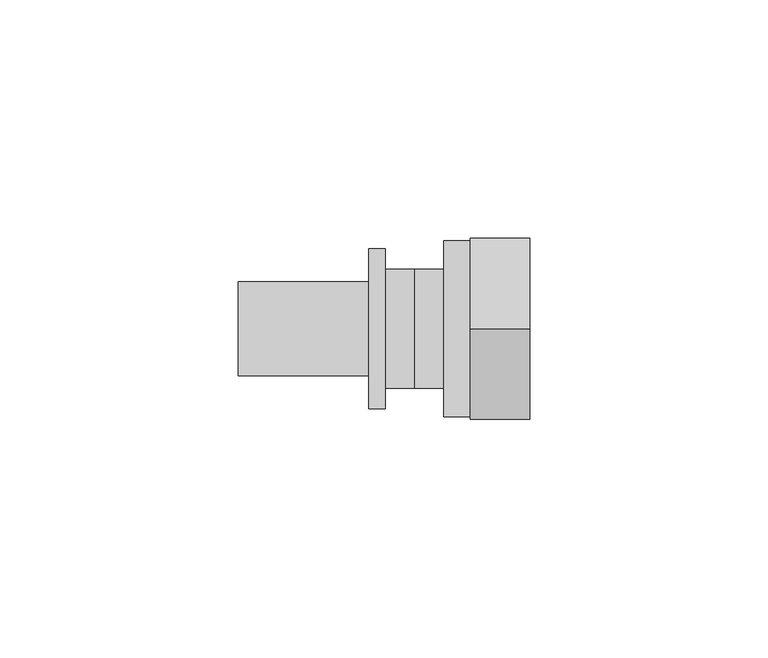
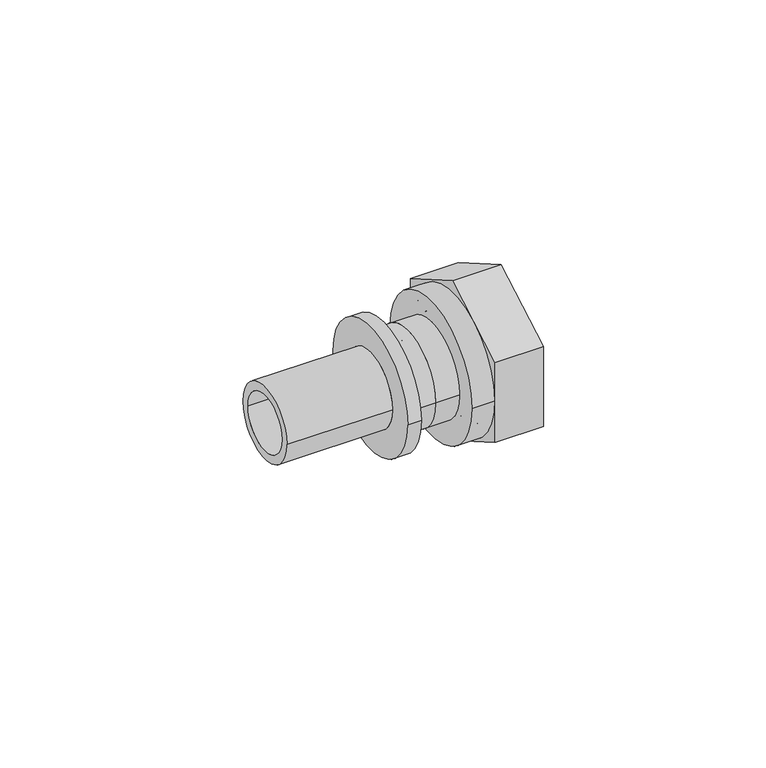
"""IFC4 building model written with IfcOpenShell, lengths in millimetres: pipe fitting geometry, REHAU_RAUTITAN_Adaptor_RX+_union nut : REHAU_RAUTITAN_Adaptor_RX+_union nut."""

from ifc_helpers import new_model, si_unit, point, frame, origin, origin_2d, place, context, project, spatial, polyline, circle_curve, trimmed, segment, composite_curve, outline, extrude, source, transform, mapped, element, save
from ifc_brep_helpers import plane_surface, cylinder_surface, revolved_surface, advanced_brep


def pipe_fitting_0ffc8cdd(model_context):
    return source(origin(), model_context, "Body", "SolidModel", [
        advanced_brep(
        [(0.0, 12.5, 0.0), (0.0, -12.5, 0.0), (-6.15, -12.5, 0.0), (-6.15, 12.5, 0.0), (-37.0, 7.6, 0.0), (-37.0, -7.6, 0.0), (0.0, -7.6, 0.0), (0.0, 7.6, 0.0), (-9.65, 9.875, 0.0), (-9.65, -9.875, 0.0), (-37.0, -9.875, 0.0), (-37.0, 9.875, 0.0), (-6.15, 16.8, 0.0), (-6.15, -16.8, 0.0), (-9.65, -16.8, 0.0), (-9.65, 16.8, 0.0)],
        [
            (0, 1, circle_curve(frame((0.0, 0.0, 0.0), z_axis=(-1.0, 0.0, 0.0), x_axis=(0.0, -1.0, 0.0)), 12.5)),
            (1, 2),
            (2, 3, circle_curve(frame((-6.15, 0.0, 0.0), z_axis=(1.0, 0.0, 0.0), x_axis=(0.0, -1.0, 0.0)), 12.5)),
            (3, 0),
            (4, 5, circle_curve(frame((-37.0, 0.0, 0.0), z_axis=(-1.0, 0.0, 0.0), x_axis=(0.0, -1.0, 0.0)), 7.6)),
            (5, 6),
            (6, 7, circle_curve(frame((0.0, 0.0, 0.0), z_axis=(1.0, 0.0, 0.0), x_axis=(0.0, -1.0, 0.0)), 7.6)),
            (7, 4),
            (8, 9, circle_curve(frame((-9.65, 0.0, 0.0), z_axis=(-1.0, 0.0, 0.0), x_axis=(0.0, -1.0, 0.0)), 9.875)),
            (9, 10),
            (10, 11, circle_curve(frame((-37.0, 0.0, 0.0), z_axis=(1.0, 0.0, 0.0), x_axis=(0.0, -1.0, 0.0)), 9.875)),
            (11, 8),
            (12, 13, circle_curve(frame((-6.15, 0.0, 0.0), z_axis=(-1.0, 0.0, 0.0), x_axis=(0.0, -1.0, 0.0)), 16.8)),
            (13, 14),
            (14, 15, circle_curve(frame((-9.65, 0.0, 0.0), z_axis=(1.0, 0.0, 0.0), x_axis=(0.0, -1.0, 0.0)), 16.8)),
            (15, 12),
            (1, 0, circle_curve(frame((0.0, 0.0, 0.0), z_axis=(-1.0, 0.0, 0.0), x_axis=(0.0, 1.0, 0.0)), 12.5)),
            (3, 2, circle_curve(frame((-6.15, 0.0, 0.0), z_axis=(1.0, 0.0, 0.0), x_axis=(0.0, 1.0, 0.0)), 12.5)),
            (6, 7, circle_curve(frame((0.0, 0.0, 0.0), z_axis=(-1.0, 0.0, 0.0), x_axis=(0.0, 1.0, 0.0)), 7.6)),
            (5, 4, circle_curve(frame((-37.0, 0.0, 0.0), z_axis=(-1.0, 0.0, 0.0), x_axis=(0.0, 1.0, 0.0)), 7.6)),
            (10, 11, circle_curve(frame((-37.0, 0.0, 0.0), z_axis=(-1.0, 0.0, 0.0), x_axis=(0.0, 1.0, 0.0)), 9.875)),
            (9, 8, circle_curve(frame((-9.65, 0.0, 0.0), z_axis=(-1.0, 0.0, 0.0), x_axis=(0.0, 1.0, 0.0)), 9.875)),
            (14, 15, circle_curve(frame((-9.65, 0.0, 0.0), z_axis=(-1.0, 0.0, 0.0), x_axis=(0.0, 1.0, 0.0)), 16.8)),
            (13, 12, circle_curve(frame((-6.15, 0.0, 0.0), z_axis=(-1.0, 0.0, 0.0), x_axis=(0.0, 1.0, 0.0)), 16.8)),
        ],
        [
            cylinder_surface(frame((0.0, 0.0, 0.0), z_axis=(1.0, 0.0, 0.0), x_axis=(0.0, -1.0, 0.0)), 12.5),
            revolved_surface(polyline([(0.0, -7.6, 0.0), (-37.0, -7.6, 0.0)]), (0.0, 0.0, 0.0), (1.0, 0.0, 0.0)),
            cylinder_surface(frame((0.0, 0.0, 0.0), z_axis=(1.0, 0.0, 0.0), x_axis=(0.0, -1.0, 0.0)), 9.875),
            cylinder_surface(frame((0.0, 0.0, 0.0), z_axis=(1.0, 0.0, 0.0), x_axis=(0.0, -1.0, 0.0)), 16.8),
            cylinder_surface(frame((0.0, 0.0, 0.0), z_axis=(1.0, 0.0, 0.0), x_axis=(0.0, 1.0, 0.0)), 12.5),
            plane_surface(frame((0.0, 0.0, 0.0), z_axis=(1.0, 0.0, 0.0), x_axis=(0.0, 1.0, 0.0))),
            revolved_surface(polyline([(0.0, 7.6, 0.0), (-37.0, 7.6, 0.0)]), (0.0, 0.0, 0.0), (1.0, 0.0, 0.0)),
            plane_surface(frame((-37.0, 0.0, 0.0), z_axis=(-1.0, 0.0, 0.0), x_axis=(0.0, 1.0, 0.0))),
            cylinder_surface(frame((0.0, 0.0, 0.0), z_axis=(1.0, 0.0, 0.0), x_axis=(0.0, 1.0, 0.0)), 9.875),
            plane_surface(frame((-9.65, 0.0, 0.0), z_axis=(-1.0, 0.0, 0.0), x_axis=(0.0, 1.0, 0.0))),
            cylinder_surface(frame((0.0, 0.0, 0.0), z_axis=(1.0, 0.0, 0.0), x_axis=(0.0, 1.0, 0.0)), 16.8),
            plane_surface(frame((-6.15, 0.0, 0.0), z_axis=(1.0, 0.0, 0.0), x_axis=(0.0, 1.0, 0.0))),
        ],
        [
            (0, [[1, 2, 3, 4]]),
            (1, [[5, 6, 7, 8]]),
            (2, [[9, 10, 11, 12]]),
            (3, [[13, 14, 15, 16]]),
            (4, [[17, -4, 18, -2]]),
            (5, [[-17, -1], [19, -7]]),
            (6, [[20, -8, -19, -6]]),
            (7, [[21, -11], [-20, -5]]),
            (8, [[22, -12, -21, -10]]),
            (9, [[23, -15], [-22, -9]]),
            (10, [[24, -16, -23, -14]]),
            (11, [[-24, -13], [-18, -3]]),
        ],
    ),
        advanced_brep(
        [(9.0, 12.5, 0.0), (9.0, -12.5, 0.0), (0.0, -12.5, 0.0), (0.0, 12.5, 0.0), (12.0, 15.3, 0.0), (12.0, -15.3, 0.0), (9.0, -15.3, 0.0), (9.0, 15.3, 0.0), (1.4730817, 10.0, 0.0), (1.4730817, -10.0, 0.0), (12.0, -10.0, 0.0), (12.0, 10.0, 0.0), (0.0, 7.8264556, 0.0), (0.0, -7.8264556, 0.0), (1.4730817, -7.8264556, 0.0), (1.4730817, 7.8264556, 0.0)],
        [
            (0, 1, circle_curve(frame((9.0, 0.0, 0.0), z_axis=(-1.0, 0.0, 0.0), x_axis=(0.0, -1.0, 0.0)), 12.5)),
            (1, 2),
            (2, 3, circle_curve(frame((0.0, 0.0, 0.0), z_axis=(1.0, 0.0, 0.0), x_axis=(0.0, -1.0, 0.0)), 12.5)),
            (3, 0),
            (4, 5, circle_curve(frame((12.0, 0.0, 0.0), z_axis=(-1.0, 0.0, 0.0), x_axis=(0.0, -1.0, 0.0)), 15.3)),
            (5, 6),
            (6, 7, circle_curve(frame((9.0, 0.0, 0.0), z_axis=(1.0, 0.0, 0.0), x_axis=(0.0, -1.0, 0.0)), 15.3)),
            (7, 4),
            (8, 9, circle_curve(frame((1.4730817, 0.0, 0.0), z_axis=(-1.0, 0.0, 0.0), x_axis=(0.0, -1.0, 0.0)), 10.0)),
            (9, 10),
            (10, 11, circle_curve(frame((12.0, 0.0, 0.0), z_axis=(1.0, 0.0, 0.0), x_axis=(0.0, -1.0, 0.0)), 10.0)),
            (11, 8),
            (2, 3, circle_curve(frame((0.0, 0.0, 0.0), z_axis=(-1.0, 0.0, 0.0), x_axis=(0.0, 1.0, 0.0)), 12.5)),
            (12, 13, circle_curve(frame((0.0, 0.0, 0.0), z_axis=(1.0, 0.0, 0.0), x_axis=(0.0, 1.0, 0.0)), 7.8264556)),
            (13, 12, circle_curve(frame((0.0, 0.0, 0.0), z_axis=(1.0, 0.0, 0.0), x_axis=(0.0, -1.0, 0.0)), 7.8264556)),
            (1, 0, circle_curve(frame((9.0, 0.0, 0.0), z_axis=(-1.0, 0.0, 0.0), x_axis=(0.0, 1.0, 0.0)), 12.5)),
            (6, 7, circle_curve(frame((9.0, 0.0, 0.0), z_axis=(-1.0, 0.0, 0.0), x_axis=(0.0, 1.0, 0.0)), 15.3)),
            (5, 4, circle_curve(frame((12.0, 0.0, 0.0), z_axis=(-1.0, 0.0, 0.0), x_axis=(0.0, 1.0, 0.0)), 15.3)),
            (10, 11, circle_curve(frame((12.0, 0.0, 0.0), z_axis=(-1.0, 0.0, 0.0), x_axis=(0.0, 1.0, 0.0)), 10.0)),
            (9, 8, circle_curve(frame((1.4730817, 0.0, 0.0), z_axis=(-1.0, 0.0, 0.0), x_axis=(0.0, 1.0, 0.0)), 10.0)),
            (13, 14),
            (14, 15, circle_curve(frame((1.4730817, 0.0, 0.0), z_axis=(1.0, 0.0, 0.0), x_axis=(0.0, -1.0, 0.0)), 7.8264556)),
            (15, 12),
            (14, 15, circle_curve(frame((1.4730817, 0.0, 0.0), z_axis=(-1.0, 0.0, 0.0), x_axis=(0.0, 1.0, 0.0)), 7.8264556)),
        ],
        [
            cylinder_surface(frame((0.0, 0.0, 0.0), z_axis=(1.0, 0.0, 0.0), x_axis=(0.0, -1.0, 0.0)), 12.5),
            cylinder_surface(frame((0.0, 0.0, 0.0), z_axis=(1.0, 0.0, 0.0), x_axis=(0.0, -1.0, 0.0)), 15.3),
            revolved_surface(polyline([(12.0, -10.0, 0.0), (1.4730817, -10.0, 0.0)]), (0.0, 0.0, 0.0), (1.0, 0.0, 0.0)),
            plane_surface(frame((0.0, 0.0, 0.0), z_axis=(-1.0, 0.0, 0.0), x_axis=(0.0, 1.0, 0.0))),
            cylinder_surface(frame((0.0, 0.0, 0.0), z_axis=(1.0, 0.0, 0.0), x_axis=(0.0, 1.0, 0.0)), 12.5),
            plane_surface(frame((9.0, 0.0, 0.0), z_axis=(-1.0, 0.0, 0.0), x_axis=(0.0, 1.0, 0.0))),
            cylinder_surface(frame((0.0, 0.0, 0.0), z_axis=(1.0, 0.0, 0.0), x_axis=(0.0, 1.0, 0.0)), 15.3),
            plane_surface(frame((12.0, 0.0, 0.0), z_axis=(1.0, 0.0, 0.0), x_axis=(0.0, 1.0, 0.0))),
            revolved_surface(polyline([(12.0, 10.0, 0.0), (1.4730817, 10.0, 0.0)]), (0.0, 0.0, 0.0), (1.0, 0.0, 0.0)),
            revolved_surface(polyline([(1.4730817, -7.8264556, 0.0), (0.0, -7.8264556, 0.0)]), (0.0, 0.0, 0.0), (1.0, 0.0, 0.0)),
            plane_surface(frame((1.4730817, 0.0, 0.0), z_axis=(1.0, 0.0, 0.0), x_axis=(0.0, 1.0, 0.0))),
            revolved_surface(polyline([(1.4730817, 7.8264556, 0.0), (0.0, 7.8264556, 0.0)]), (0.0, 0.0, 0.0), (1.0, 0.0, 0.0)),
        ],
        [
            (0, [[1, 2, 3, 4]]),
            (1, [[5, 6, 7, 8]]),
            (2, [[9, 10, 11, 12]]),
            (3, [[13, -3], [14, 15]]),
            (4, [[16, -4, -13, -2]]),
            (5, [[17, -7], [-16, -1]]),
            (6, [[18, -8, -17, -6]]),
            (7, [[-18, -5], [19, -11]]),
            (8, [[20, -12, -19, -10]]),
            (9, [[-15, 21, 22, 23]]),
            (10, [[-20, -9], [24, -22]]),
            (11, [[-14, -23, -24, -21]]),
        ],
    ),
        advanced_brep(
        [(24.2, 18.5, 0.0), (24.2, -18.5, 0.0), (6.1, -18.5, 0.0), (6.1, 18.5, 0.0), (9.0, 15.3, 0.0), (9.0, -15.3, 0.0), (24.2, -15.3, 0.0), (24.2, 15.3, 0.0), (6.1, 12.4, 0.0), (6.1, -12.4, 0.0), (9.0, -12.4, 0.0), (9.0, 12.4, 0.0)],
        [
            (0, 1, circle_curve(frame((24.2, 0.0, 0.0), z_axis=(-1.0, 0.0, 0.0), x_axis=(0.0, -1.0, 0.0)), 18.5)),
            (1, 2),
            (2, 3, circle_curve(frame((6.1, 0.0, 0.0), z_axis=(1.0, 0.0, 0.0), x_axis=(0.0, -1.0, 0.0)), 18.5)),
            (3, 0),
            (4, 5, circle_curve(frame((9.0, 0.0, 0.0), z_axis=(-1.0, 0.0, 0.0), x_axis=(0.0, -1.0, 0.0)), 15.3)),
            (5, 6),
            (6, 7, circle_curve(frame((24.2, 0.0, 0.0), z_axis=(1.0, 0.0, 0.0), x_axis=(0.0, -1.0, 0.0)), 15.3)),
            (7, 4),
            (8, 9, circle_curve(frame((6.1, 0.0, 0.0), z_axis=(-1.0, 0.0, 0.0), x_axis=(0.0, -1.0, 0.0)), 12.4)),
            (9, 10),
            (10, 11, circle_curve(frame((9.0, 0.0, 0.0), z_axis=(1.0, 0.0, 0.0), x_axis=(0.0, -1.0, 0.0)), 12.4)),
            (11, 8),
            (1, 0, circle_curve(frame((24.2, 0.0, 0.0), z_axis=(-1.0, 0.0, 0.0), x_axis=(0.0, 1.0, 0.0)), 18.5)),
            (3, 2, circle_curve(frame((6.1, 0.0, 0.0), z_axis=(1.0, 0.0, 0.0), x_axis=(0.0, 1.0, 0.0)), 18.5)),
            (6, 7, circle_curve(frame((24.2, 0.0, 0.0), z_axis=(-1.0, 0.0, 0.0), x_axis=(0.0, 1.0, 0.0)), 15.3)),
            (5, 4, circle_curve(frame((9.0, 0.0, 0.0), z_axis=(-1.0, 0.0, 0.0), x_axis=(0.0, 1.0, 0.0)), 15.3)),
            (10, 11, circle_curve(frame((9.0, 0.0, 0.0), z_axis=(-1.0, 0.0, 0.0), x_axis=(0.0, 1.0, 0.0)), 12.4)),
            (9, 8, circle_curve(frame((6.1, 0.0, 0.0), z_axis=(-1.0, 0.0, 0.0), x_axis=(0.0, 1.0, 0.0)), 12.4)),
        ],
        [
            cylinder_surface(frame((0.0, 0.0, 0.0), z_axis=(1.0, 0.0, 0.0), x_axis=(0.0, -1.0, 0.0)), 18.5),
            revolved_surface(polyline([(24.2, -15.3, 0.0), (9.0, -15.3, 0.0)]), (0.0, 0.0, 0.0), (1.0, 0.0, 0.0)),
            revolved_surface(polyline([(9.0, -12.4, 0.0), (6.1, -12.4, 0.0)]), (0.0, 0.0, 0.0), (1.0, 0.0, 0.0)),
            cylinder_surface(frame((0.0, 0.0, 0.0), z_axis=(1.0, 0.0, 0.0), x_axis=(0.0, 1.0, 0.0)), 18.5),
            plane_surface(frame((24.2, 0.0, 0.0), z_axis=(1.0, 0.0, 0.0), x_axis=(0.0, 1.0, 0.0))),
            revolved_surface(polyline([(24.2, 15.3, 0.0), (9.0, 15.3, 0.0)]), (0.0, 0.0, 0.0), (1.0, 0.0, 0.0)),
            plane_surface(frame((9.0, 0.0, 0.0), z_axis=(1.0, 0.0, 0.0), x_axis=(0.0, 1.0, 0.0))),
            revolved_surface(polyline([(9.0, 12.4, 0.0), (6.1, 12.4, 0.0)]), (0.0, 0.0, 0.0), (1.0, 0.0, 0.0)),
            plane_surface(frame((6.1, 0.0, 0.0), z_axis=(-1.0, 0.0, 0.0), x_axis=(0.0, 1.0, 0.0))),
        ],
        [
            (0, [[1, 2, 3, 4]]),
            (1, [[5, 6, 7, 8]]),
            (2, [[9, 10, 11, 12]]),
            (3, [[13, -4, 14, -2]]),
            (4, [[-13, -1], [15, -7]]),
            (5, [[16, -8, -15, -6]]),
            (6, [[-16, -5], [17, -11]]),
            (7, [[18, -12, -17, -10]]),
            (8, [[-14, -3], [-18, -9]]),
        ],
    ),
        extrude(outline(polyline([(0.0, -21.9393102), (-19.0, -10.9696551), (-19.0, 10.9696551), (0.0, 21.9393102), (19.0, 10.9696551), (19.0, -10.9696551), (0.0, -21.9393102)]), holes=[composite_curve([segment(trimmed(circle_curve(origin_2d(), 18.5), [point((-18.5, 0.0))], [point((18.5, 0.0))], True, "CARTESIAN"), True, "CONTINUOUS"), segment(trimmed(circle_curve(origin_2d(), 18.5), [point((18.5, 0.0))], [point((-18.5, 0.0))], True, "CARTESIAN"), True, "CONTINUOUS")], self_intersect=False)]), frame((11.7, 0.0, 0.0), z_axis=(1.0, 0.0, 0.0), x_axis=(0.0, 1.0, 0.0)), (0.0, 0.0, 1.0), 12.5),
    ])


if __name__ == "__main__":
    model = new_model("IFC4")
    model_context = context("Model", 3, world=origin())
    ifc_project = project(units=[si_unit("LENGTHUNIT", "METRE", prefix="MILLI")], contexts=[model_context])
    site = spatial("IfcSite", under=ifc_project)
    building = spatial("IfcBuilding", under=site)
    placement = place(None, origin())
    pipe_fitting_shape = pipe_fitting_0ffc8cdd(model_context)
    element("IfcPipeFitting", 1, ObjectType="REHAU_RAUTITAN_Adaptor_RX+_union nut : REHAU_RAUTITAN_Adaptor_RX+_union nut", at=placement, inside=building, context=model_context, shape_type="MappedRepresentation", body=[
        mapped(pipe_fitting_shape, transform((0.0, 0.0, 0.0), x_axis=(1.0, 0.0, 0.0), y_axis=(0.0, 1.0, 0.0), z_axis=(0.0, 0.0, 1.0))),
    ])
    save(model, "model.ifc")
